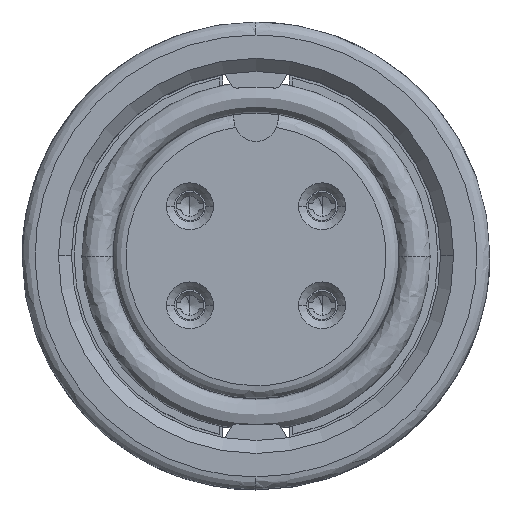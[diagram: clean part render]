
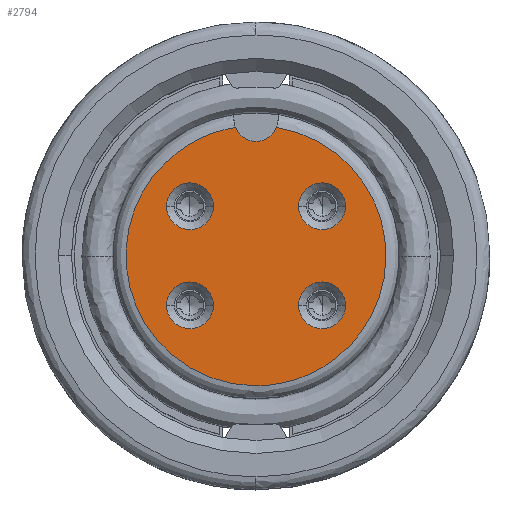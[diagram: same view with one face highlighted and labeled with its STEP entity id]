
A CAD part, top view. The second image highlights one B-rep face of the part: STEP entity #2794.
In plain terms, the highlighted planar face has unit normal (0, 0, 1).
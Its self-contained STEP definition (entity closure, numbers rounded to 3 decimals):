
#99 = VERTEX_POINT ( 'NONE', #2875 ) ;
#219 = CARTESIAN_POINT ( 'NONE',  ( -8.571, -4.896, 0. ) ) ;
#237 = AXIS2_PLACEMENT_3D ( 'NONE', #13468, #6550, #11032 ) ;
#249 = DIRECTION ( 'NONE',  ( 0., 0., 1. ) ) ;
#322 = CARTESIAN_POINT ( 'NONE',  ( 2.54, 1.905, 0. ) ) ;
#327 = VERTEX_POINT ( 'NONE', #9240 ) ;
#665 = CIRCLE ( 'NONE', #12653, 0.9 ) ;
#705 = DIRECTION ( 'NONE',  ( 0., 0., -1. ) ) ;
#758 = DIRECTION ( 'NONE',  ( 0., 0., -1. ) ) ;
#852 = EDGE_LOOP ( 'NONE', ( #10550, #9952 ) ) ;
#900 = EDGE_LOOP ( 'NONE', ( #12637, #14385 ) ) ;
#1073 = CARTESIAN_POINT ( 'NONE',  ( -0.061, -5., 0. ) ) ;
#1117 = ORIENTED_EDGE ( 'NONE', *, *, #13409, .F. ) ;
#1185 = CARTESIAN_POINT ( 'NONE',  ( 0.79, 4.937, 0. ) ) ;
#1339 = CARTESIAN_POINT ( 'NONE',  ( 3.44, -1.905, 0. ) ) ;
#1356 = DIRECTION ( 'NONE',  ( 0., 0., -1. ) ) ;
#1671 = CARTESIAN_POINT ( 'NONE',  ( -2.54, 1.905, 0. ) ) ;
#1694 = EDGE_CURVE ( 'NONE', #2394, #5911, #11094, .T. ) ;
#1781 = CARTESIAN_POINT ( 'NONE',  ( 1.64, -1.905, 0. ) ) ;
#1873 = CARTESIAN_POINT ( 'NONE',  ( 1.64, 1.905, 0. ) ) ;
#1915 = AXIS2_PLACEMENT_3D ( 'NONE', #13096, #3312, #14200 ) ;
#2394 = VERTEX_POINT ( 'NONE', #6091 ) ;
#2481 = CARTESIAN_POINT ( 'NONE',  ( -0.79, 4.937, 0. ) ) ;
#2612 = PLANE ( 'NONE',  #5196 ) ;
#2681 = FACE_BOUND ( 'NONE', #900, .T. ) ;
#2704 = CARTESIAN_POINT ( 'NONE',  ( -0.061, -5., 0. ) ) ;
#2749 = VERTEX_POINT ( 'NONE', #1339 ) ;
#2775 = EDGE_CURVE ( 'NONE', #5911, #2394, #6585, .T. ) ;
#2794 = ADVANCED_FACE ( 'NONE', ( #13715, #2681, #6070, #10339, #8069 ), #2612, .T. ) ;
#2875 = CARTESIAN_POINT ( 'NONE',  ( -1.64, -1.905, 0. ) ) ;
#3225 = EDGE_LOOP ( 'NONE', ( #13674, #3588 ) ) ;
#3244 = CARTESIAN_POINT ( 'NONE',  ( -9.194, 3.592, 0. ) ) ;
#3312 = DIRECTION ( 'NONE',  ( 0., 0., -1. ) ) ;
#3420 = ORIENTED_EDGE ( 'NONE', *, *, #7355, .F. ) ;
#3588 = ORIENTED_EDGE ( 'NONE', *, *, #7941, .T. ) ;
#3726 = DIRECTION ( 'NONE',  ( 1., 0., 0. ) ) ;
#3896 = EDGE_CURVE ( 'NONE', #12315, #99, #12720, .T. ) ;
#4003 = DIRECTION ( 'NONE',  ( 1., 0., 0. ) ) ;
#4008 = DIRECTION ( 'NONE',  ( 0., 0., -1. ) ) ;
#4575 = EDGE_CURVE ( 'NONE', #99, #12315, #10835, .T. ) ;
#4580 = ORIENTED_EDGE ( 'NONE', *, *, #2775, .T. ) ;
#4647 = CARTESIAN_POINT ( 'NONE',  ( -0.061, -5., 0. ) ) ;
#4779 = CARTESIAN_POINT ( 'NONE',  ( 9.38, 3.562, 0. ) ) ;
#4828 = DIRECTION ( 'NONE',  ( 0., 0., -1. ) ) ;
#5196 = AXIS2_PLACEMENT_3D ( 'NONE', #12540, #249, #13641 ) ;
#5531 =( BOUNDED_CURVE ( )  B_SPLINE_CURVE ( 3, ( #10439, #4779, #12491, #2704 ),
 .UNSPECIFIED., .F., .T. ) 
 B_SPLINE_CURVE_WITH_KNOTS ( ( 4, 4 ),
 ( 0., 1. ),
 .UNSPECIFIED. ) 
 CURVE ( )  GEOMETRIC_REPRESENTATION_ITEM ( )  RATIONAL_B_SPLINE_CURVE ( ( 1., 0.382, 0.382, 1. ) ) 
 REPRESENTATION_ITEM ( '' )  );
#5638 = ORIENTED_EDGE ( 'NONE', *, *, #1694, .T. ) ;
#5658 = VERTEX_POINT ( 'NONE', #1873 ) ;
#5787 = DIRECTION ( 'NONE',  ( 1., 0., 0. ) ) ;
#5859 = CARTESIAN_POINT ( 'NONE',  ( -2.54, 1.905, 0. ) ) ;
#5888 = CIRCLE ( 'NONE', #13161, 0.85 ) ;
#5911 = VERTEX_POINT ( 'NONE', #11135 ) ;
#5919 = CIRCLE ( 'NONE', #1915, 0.9 ) ;
#5998 = EDGE_LOOP ( 'NONE', ( #5638, #4580 ) ) ;
#6070 = FACE_BOUND ( 'NONE', #5998, .T. ) ;
#6091 = CARTESIAN_POINT ( 'NONE',  ( -3.44, 1.905, 0. ) ) ;
#6297 = VERTEX_POINT ( 'NONE', #1185 ) ;
#6550 = DIRECTION ( 'NONE',  ( 0., 0., -1. ) ) ;
#6585 = CIRCLE ( 'NONE', #11749, 0.9 ) ;
#6632 = AXIS2_PLACEMENT_3D ( 'NONE', #1671, #13006, #12852 ) ;
#6851 = EDGE_CURVE ( 'NONE', #5658, #327, #665, .T. ) ;
#7355 = EDGE_CURVE ( 'NONE', #8993, #10210, #10290, .T. ) ;
#7498 = DIRECTION ( 'NONE',  ( 1., 0., 0. ) ) ;
#7941 = EDGE_CURVE ( 'NONE', #327, #5658, #8914, .T. ) ;
#8069 = FACE_OUTER_BOUND ( 'NONE', #13024, .T. ) ;
#8289 = DIRECTION ( 'NONE',  ( 1., 0., 0. ) ) ;
#8574 = CARTESIAN_POINT ( 'NONE',  ( -2.54, -1.905, 0. ) ) ;
#8914 = CIRCLE ( 'NONE', #13839, 0.9 ) ;
#8972 = EDGE_CURVE ( 'NONE', #6297, #10210, #5888, .T. ) ;
#8993 = VERTEX_POINT ( 'NONE', #1073 ) ;
#9240 = CARTESIAN_POINT ( 'NONE',  ( 3.44, 1.905, 0. ) ) ;
#9315 = CARTESIAN_POINT ( 'NONE',  ( -2.54, -1.905, 0. ) ) ;
#9720 = CARTESIAN_POINT ( 'NONE',  ( -3.44, -1.905, 0. ) ) ;
#9952 = ORIENTED_EDGE ( 'NONE', *, *, #4575, .T. ) ;
#9986 = EDGE_CURVE ( 'NONE', #2749, #11516, #12933, .T. ) ;
#10023 = CARTESIAN_POINT ( 'NONE',  ( -0.79, 4.937, 0. ) ) ;
#10210 = VERTEX_POINT ( 'NONE', #2481 ) ;
#10290 =( BOUNDED_CURVE ( )  B_SPLINE_CURVE ( 3, ( #4647, #219, #3244, #10023 ),
 .UNSPECIFIED., .F., .T. ) 
 B_SPLINE_CURVE_WITH_KNOTS ( ( 4, 4 ),
 ( 0., 1. ),
 .UNSPECIFIED. ) 
 CURVE ( )  GEOMETRIC_REPRESENTATION_ITEM ( )  RATIONAL_B_SPLINE_CURVE ( ( 1., 0.39, 0.39, 1. ) ) 
 REPRESENTATION_ITEM ( '' )  );
#10339 = FACE_BOUND ( 'NONE', #3225, .T. ) ;
#10439 = CARTESIAN_POINT ( 'NONE',  ( 0.79, 4.937, 0. ) ) ;
#10550 = ORIENTED_EDGE ( 'NONE', *, *, #3896, .T. ) ;
#10728 = CARTESIAN_POINT ( 'NONE',  ( 2.54, 1.905, 0. ) ) ;
#10787 = EDGE_CURVE ( 'NONE', #11516, #2749, #5919, .T. ) ;
#10835 = CIRCLE ( 'NONE', #12705, 0.9 ) ;
#11032 = DIRECTION ( 'NONE',  ( 1., 0., 0. ) ) ;
#11094 = CIRCLE ( 'NONE', #6632, 0.9 ) ;
#11135 = CARTESIAN_POINT ( 'NONE',  ( -1.64, 1.905, 0. ) ) ;
#11516 = VERTEX_POINT ( 'NONE', #1781 ) ;
#11535 = ORIENTED_EDGE ( 'NONE', *, *, #8972, .T. ) ;
#11749 = AXIS2_PLACEMENT_3D ( 'NONE', #5859, #4828, #5787 ) ;
#12117 = CARTESIAN_POINT ( 'NONE',  ( 0., 5.25, 0. ) ) ;
#12192 = DIRECTION ( 'NONE',  ( 0., 0., -1. ) ) ;
#12315 = VERTEX_POINT ( 'NONE', #9720 ) ;
#12491 = CARTESIAN_POINT ( 'NONE',  ( 8.638, -5.106, 0. ) ) ;
#12540 = CARTESIAN_POINT ( 'NONE',  ( 0.002, -0.031, 0. ) ) ;
#12637 = ORIENTED_EDGE ( 'NONE', *, *, #10787, .T. ) ;
#12653 = AXIS2_PLACEMENT_3D ( 'NONE', #10728, #705, #7498 ) ;
#12705 = AXIS2_PLACEMENT_3D ( 'NONE', #9315, #1356, #3726 ) ;
#12720 = CIRCLE ( 'NONE', #13428, 0.9 ) ;
#12852 = DIRECTION ( 'NONE',  ( 1., 0., 0. ) ) ;
#12933 = CIRCLE ( 'NONE', #237, 0.9 ) ;
#13006 = DIRECTION ( 'NONE',  ( 0., 0., -1. ) ) ;
#13024 = EDGE_LOOP ( 'NONE', ( #1117, #11535, #3420 ) ) ;
#13085 = DIRECTION ( 'NONE',  ( 1., 0., 0. ) ) ;
#13096 = CARTESIAN_POINT ( 'NONE',  ( 2.54, -1.905, 0. ) ) ;
#13161 = AXIS2_PLACEMENT_3D ( 'NONE', #12117, #12192, #13085 ) ;
#13409 = EDGE_CURVE ( 'NONE', #6297, #8993, #5531, .T. ) ;
#13428 = AXIS2_PLACEMENT_3D ( 'NONE', #8574, #758, #4003 ) ;
#13468 = CARTESIAN_POINT ( 'NONE',  ( 2.54, -1.905, 0. ) ) ;
#13641 = DIRECTION ( 'NONE',  ( 1., 0., 0. ) ) ;
#13674 = ORIENTED_EDGE ( 'NONE', *, *, #6851, .T. ) ;
#13715 = FACE_BOUND ( 'NONE', #852, .T. ) ;
#13839 = AXIS2_PLACEMENT_3D ( 'NONE', #322, #4008, #8289 ) ;
#14200 = DIRECTION ( 'NONE',  ( 1., 0., 0. ) ) ;
#14385 = ORIENTED_EDGE ( 'NONE', *, *, #9986, .T. ) ;
